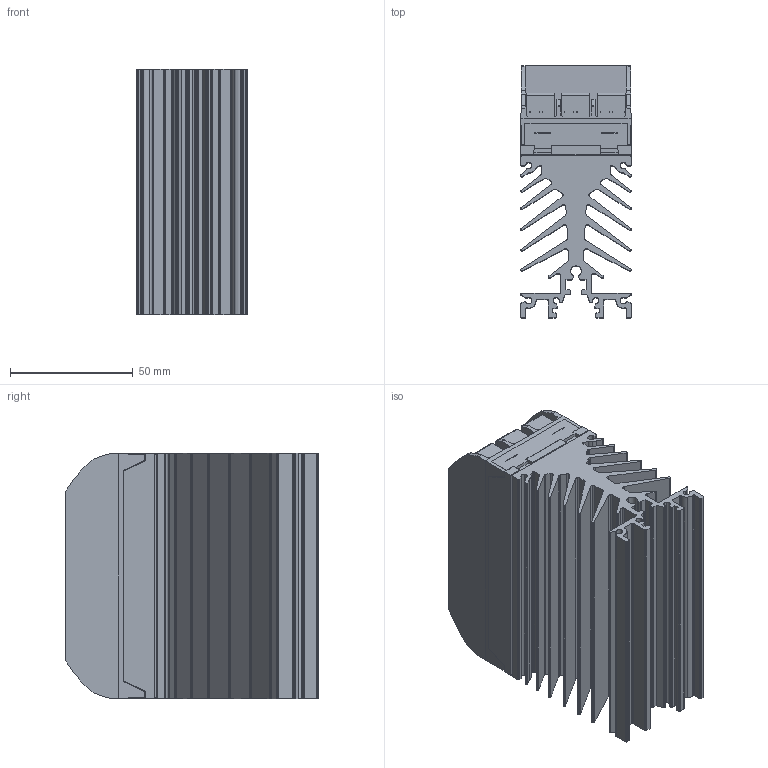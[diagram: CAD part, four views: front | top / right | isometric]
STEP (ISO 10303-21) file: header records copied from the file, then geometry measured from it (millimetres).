
FILE_DESCRIPTION(/* description */ (''),/* implementation_level */ '2;1');
FILE_NAME(/* name */ 'C:\Vault_local\Designs\Stock\3D pour clients\2D3D 600\2D3D 648 A.stp',/* time_stamp */ '2017-12-20T11:37:59+01:00',/* author */ ('fbros'),/* organization */ (''),/* preprocessor_version */ 'ST-DEVELOPER v15.2',/* originating_system */ 'Autodesk Inventor 2014',/* authorisation */ '');
FILE_SCHEMA (('CONFIG_CONTROL_DESIGN'));
Products named in the file (1): 2D3D 648 A
Bounding box: 45 x 102.7 x 100 mm (x, y, z)
Volume: 241037 mm3; surface area: 111962.1 mm2
Topology: 1 solids, 38 shells, 1665 faces, 4365 edges, 2895 vertices
Faces by surface type: plane 984, cylinder 498, cone 169, bspline 13, torus 1
Full cylindrical faces by diameter (mm): 1 x54, 1.5 x36, 2.35 x1, 2.9 x1, 3.242 x2, 4 x12, 4.7 x1
Entity records: 52747 total; most frequent: CARTESIAN_POINT 10486, DIRECTION 8695, ORIENTED_EDGE 8058, EDGE_CURVE 4029, AXIS2_PLACEMENT_3D 3089, VERTEX_POINT 2769, LINE 2517, VECTOR 2517
